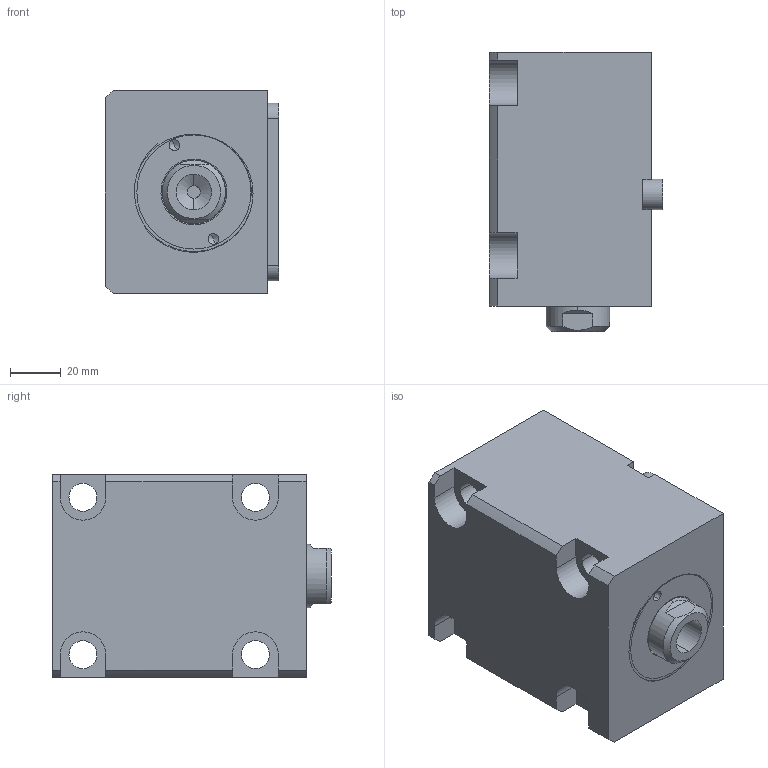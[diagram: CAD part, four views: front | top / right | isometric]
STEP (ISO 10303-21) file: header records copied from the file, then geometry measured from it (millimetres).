
FILE_DESCRIPTION (( 'STEP AP214' ), '1' );
FILE_NAME ('chtb-lam40x45n_asm.STEP', '2018-05-29T08:04:47', ( 'Windows' ), ( 'Microsoft' ), 'SwSTEP 2.0', 'SolidWorks 2015', '' );
FILE_SCHEMA (( 'AUTOMOTIVE_DESIGN' ));
Length unit declared in the file: millimetre
Products named in the file (5): CHTB-SD40X45NHSG; CHTB-SD40QG; CHTB-LAM40X45NBT; CHTB-LA40PJ; chtb-lam40x45n_asm
Assembly tree (4 placements, depth 2):
  chtb-lam40x45n_asm
    CHTB-LA40PJ
    CHTB-LAM40X45NBT
    CHTB-SD40QG
    CHTB-SD40X45NHSG
Bounding box: 68.5 x 110 x 80 mm (x, y, z)
Volume: 441669.7 mm3; surface area: 86363.8 mm2
Topology: 4 solids, 4 shells, 154 faces, 418 edges, 278 vertices
Faces by surface type: cylinder 73, plane 46, bspline 14, torus 12, cone 9
Entity records: 10092 total; most frequent: CARTESIAN_POINT 6074, ORIENTED_EDGE 824, DIRECTION 755, EDGE_CURVE 412, AXIS2_PLACEMENT_3D 300, VERTEX_POINT 278, EDGE_LOOP 180, LINE 155
